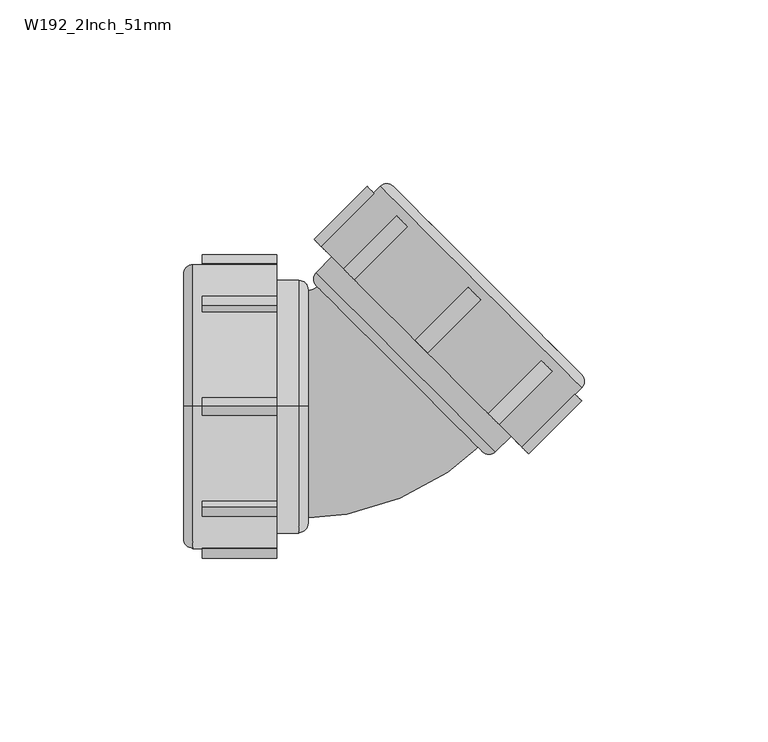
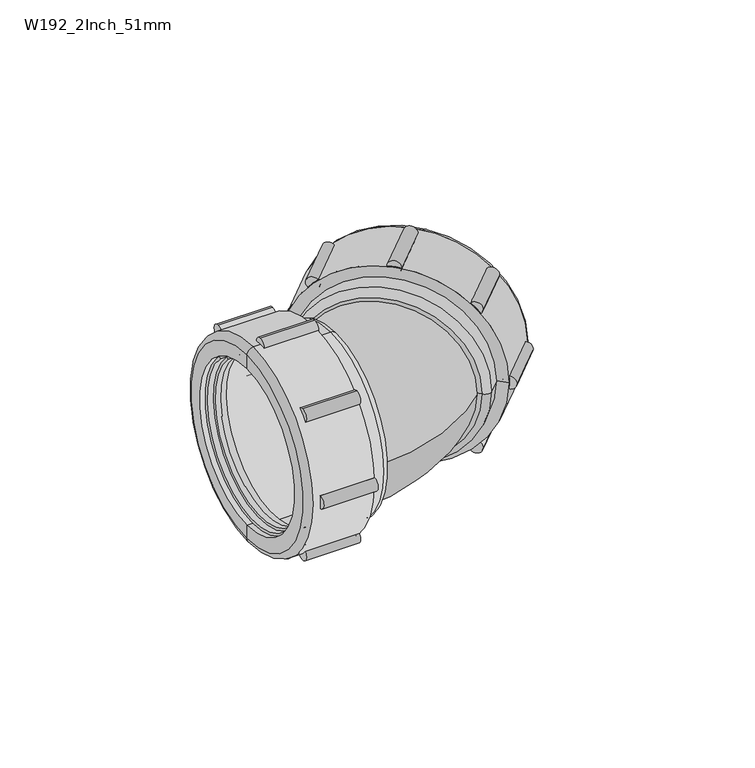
"""IFC4 building model written with IfcOpenShell, lengths in millimetres: pipe fitting geometry, Durapipe_PipeFitting_VulcatheneMechanical_135SlowBend_W19 : W192_2Inch_51mm."""

from ifc_helpers import new_model, si_unit, point, frame, frame_2d, origin, place, context, project, spatial, polyline, circle_curve, ellipse_curve, trimmed, segment, composite_curve, outline, extrude, source, transform, mapped, element, save
from ifc_brep_helpers import plane_surface, cylinder_surface, revolved_surface, advanced_brep


def w192_2inch_51mm_91547f29(model_context):
    return source(origin(), model_context, "Body", "SolidModel", [
        advanced_brep(
        [(26.276861, 48.7806566, 22.839549), (58.576861, 16.4806566, -22.839549), (57.476861, 17.5806566, -21.2839141), (27.376861, 47.6806566, 21.2839141), (22.667063, 44.4708586, 22.3445743), (54.267063, 12.8708586, -22.3445743), (21.9771135, 43.1809091, 21.9203102), (52.9771135, 12.1809091, -21.9203102), (53.967063, 13.1708586, -21.9203102), (22.967063, 44.1708586, 21.9203102), (22.6771135, 42.4809091, 20.9303607), (52.2771135, 12.8809091, -20.9303607), (24.3034591, 44.1072547, 20.9303607), (53.9034591, 14.5072547, -20.9303607), (24.5034591, 43.9072547, 20.647518), (53.7034591, 14.7072547, -20.647518), (25.609094, 45.9128896, 21.2839141), (55.709094, 15.8128896, -21.2839141), (55.259094, 16.2628896, -20.647518), (26.059094, 45.4628896, 20.647518)],
        [
            (0, 1, circle_curve(frame((42.426861, 32.6306566, 0.0), z_axis=(0.7071067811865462, 0.7071067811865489, 0.0), x_axis=(0.5000000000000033, -0.4999999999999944, -0.7071067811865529)), 32.3)),
            (1, 2),
            (2, 3, circle_curve(frame((42.426861, 32.6306566, 0.0), z_axis=(-0.7071067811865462, -0.7071067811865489, 0.0), x_axis=(0.5000000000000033, -0.4999999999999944, -0.7071067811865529)), 30.1)),
            (3, 0),
            (1, 0, circle_curve(frame((42.426861, 32.6306566, 0.0), z_axis=(0.7071067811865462, 0.7071067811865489, 0.0), x_axis=(0.5000000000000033, -0.4999999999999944, -0.7071067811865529)), 32.3)),
            (3, 2, circle_curve(frame((42.426861, 32.6306566, 0.0), z_axis=(-0.7071067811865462, -0.7071067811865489, 0.0), x_axis=(0.5000000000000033, -0.4999999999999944, -0.7071067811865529)), 30.1)),
            (4, 5, circle_curve(frame((38.467063, 28.6708586, 0.0), z_axis=(0.7071067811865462, 0.7071067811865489, 0.0), x_axis=(0.5000000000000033, -0.4999999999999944, -0.7071067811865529)), 31.6)),
            (5, 1),
            (0, 4),
            (5, 4, circle_curve(frame((38.467063, 28.6708586, 0.0), z_axis=(0.7071067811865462, 0.7071067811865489, 0.0), x_axis=(0.5000000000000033, -0.4999999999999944, -0.7071067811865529)), 31.6)),
            (6, 7, circle_curve(frame((37.4771135, 27.6809091, 0.0), z_axis=(0.7071067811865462, 0.7071067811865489, 0.0), x_axis=(0.5000000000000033, -0.4999999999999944, -0.7071067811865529)), 31.0)),
            (7, 8),
            (8, 9, circle_curve(frame((38.467063, 28.6708586, 0.0), z_axis=(-0.7071067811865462, -0.7071067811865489, 0.0), x_axis=(0.5000000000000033, -0.4999999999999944, -0.7071067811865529)), 31.0)),
            (9, 6),
            (7, 6, circle_curve(frame((37.4771135, 27.6809091, 0.0), z_axis=(0.7071067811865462, 0.7071067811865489, 0.0), x_axis=(0.5000000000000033, -0.4999999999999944, -0.7071067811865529)), 31.0)),
            (9, 8, circle_curve(frame((38.467063, 28.6708586, 0.0), z_axis=(-0.7071067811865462, -0.7071067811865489, 0.0), x_axis=(0.5000000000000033, -0.4999999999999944, -0.7071067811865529)), 31.0)),
            (6, 10),
            (10, 11, circle_curve(frame((37.4771135, 27.6809091, 0.0), z_axis=(0.7071067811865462, 0.7071067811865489, 0.0), x_axis=(0.5000000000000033, -0.4999999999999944, -0.7071067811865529)), 29.6)),
            (11, 7),
            (11, 10, circle_curve(frame((37.4771135, 27.6809091, 0.0), z_axis=(0.7071067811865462, 0.7071067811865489, 0.0), x_axis=(0.5000000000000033, -0.4999999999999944, -0.7071067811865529)), 29.6)),
            (10, 12),
            (12, 13, circle_curve(frame((39.1034591, 29.3072547, 0.0), z_axis=(0.7071067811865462, 0.7071067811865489, 0.0), x_axis=(0.5000000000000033, -0.4999999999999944, -0.7071067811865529)), 29.6)),
            (13, 11),
            (13, 12, circle_curve(frame((39.1034591, 29.3072547, 0.0), z_axis=(0.7071067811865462, 0.7071067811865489, 0.0), x_axis=(0.5000000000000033, -0.4999999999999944, -0.7071067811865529)), 29.6)),
            (12, 14),
            (14, 15, circle_curve(frame((39.1034591, 29.3072547, 0.0), z_axis=(0.7071067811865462, 0.7071067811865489, 0.0), x_axis=(0.5000000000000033, -0.4999999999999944, -0.7071067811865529)), 29.2)),
            (15, 13),
            (15, 14, circle_curve(frame((39.1034591, 29.3072547, 0.0), z_axis=(0.7071067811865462, 0.7071067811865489, 0.0), x_axis=(0.5000000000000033, -0.4999999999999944, -0.7071067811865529)), 29.2)),
            (16, 17, circle_curve(frame((40.659094, 30.8628896, 0.0), z_axis=(0.7071067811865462, 0.7071067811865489, 0.0), x_axis=(0.5000000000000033, -0.4999999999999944, -0.7071067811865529)), 30.1)),
            (17, 18),
            (18, 19, circle_curve(frame((40.659094, 30.8628896, 0.0), z_axis=(-0.7071067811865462, -0.7071067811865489, 0.0), x_axis=(0.5000000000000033, -0.4999999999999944, -0.7071067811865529)), 29.2)),
            (19, 16),
            (17, 16, circle_curve(frame((40.659094, 30.8628896, 0.0), z_axis=(0.7071067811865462, 0.7071067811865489, 0.0), x_axis=(0.5000000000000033, -0.4999999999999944, -0.7071067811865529)), 30.1)),
            (19, 18, circle_curve(frame((40.659094, 30.8628896, 0.0), z_axis=(-0.7071067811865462, -0.7071067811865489, 0.0), x_axis=(0.5000000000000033, -0.4999999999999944, -0.7071067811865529)), 29.2)),
            (2, 17),
            (16, 3),
            (14, 19),
            (18, 15),
            (4, 9),
            (8, 5),
        ],
        [
            plane_surface(frame((42.426861, 32.6306566, 0.0), z_axis=(0.7071067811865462, 0.7071067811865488, 0.0), x_axis=(0.500000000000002, -0.4999999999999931, -0.707106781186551))),
            revolved_surface(polyline([(58.576861, 16.4806566, -22.839549), (54.267063, 12.8708586, -22.3445743)]), (45.9623949, 36.1661905, 0.0), (-0.7071067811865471, -0.7071067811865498, 0.0)),
            cylinder_surface(frame((36.0129388, 26.2167344, 0.0), z_axis=(-0.7071067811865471, -0.7071067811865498, 0.0), x_axis=(0.5000000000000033, -0.4999999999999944, -0.7071067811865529)), 31.0),
            plane_surface(frame((37.4771135, 27.6809091, 0.0), z_axis=(-0.7071067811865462, -0.7071067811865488, 0.0), x_axis=(0.500000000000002, -0.4999999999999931, -0.707106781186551))),
            revolved_surface(polyline([(52.27711350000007, 12.880909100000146, -20.930360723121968), (53.90345910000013, 14.50725470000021, -20.930360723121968)]), (35.0071959, 25.2109915, 0.0), (-0.7071067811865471, -0.7071067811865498, 0.0)),
            plane_surface(frame((39.1034591, 29.3072547, 0.0), z_axis=(-0.7071067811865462, -0.7071067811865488, 0.0), x_axis=(0.500000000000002, -0.4999999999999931, -0.707106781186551))),
            plane_surface(frame((40.659094, 30.8628896, 0.0), z_axis=(0.7071067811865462, 0.7071067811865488, 0.0), x_axis=(0.500000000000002, -0.4999999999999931, -0.707106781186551))),
            revolved_surface(polyline([(55.70909400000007, 15.812889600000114, -21.283914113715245), (57.47686100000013, 17.58065660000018, -21.283914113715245)]), (45.9623949, 36.1661905, 0.0), (-0.7071067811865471, -0.7071067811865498, 0.0)),
            revolved_surface(polyline([(53.70345905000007, 14.707254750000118, -20.647518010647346), (55.25909395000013, 16.262889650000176, -20.647518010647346)]), (43.5343262, 33.7381219, 0.0), (-0.7071067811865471, -0.7071067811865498, 0.0)),
            plane_surface(frame((38.467063, 28.6708586, 0.0), z_axis=(-0.7071067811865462, -0.7071067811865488, 0.0), x_axis=(0.500000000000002, -0.4999999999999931, -0.707106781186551))),
        ],
        [
            (0, [[1, 2, 3, 4]]),
            (0, [[-2, 5, -4, 6]]),
            (1, [[7, 8, -1, 9]]),
            (1, [[10, -9, -5, -8]]),
            (2, [[11, 12, 13, 14]]),
            (2, [[-12, 15, -14, 16]]),
            (3, [[-11, 17, 18, 19]]),
            (3, [[-15, -19, 20, -17]]),
            (4, [[21, 22, 23, -18]]),
            (4, [[-21, -20, -23, 24]]),
            (5, [[-22, 25, 26, 27]]),
            (5, [[-24, -27, 28, -25]]),
            (6, [[29, 30, 31, 32]]),
            (6, [[33, -32, 34, -30]]),
            (7, [[-3, 35, -29, 36]]),
            (7, [[-6, -36, -33, -35]]),
            (8, [[37, -31, 38, -26]]),
            (8, [[-37, -28, -38, -34]]),
            (9, [[-7, 39, -13, 40]]),
            (9, [[-10, -40, -16, -39]]),
        ],
    ),
        advanced_brep(
        [(-1.3430488, 43.732233, 0.0), (53.5284374, -11.1392532, 0.0), (69.7211827, 5.0534921, 0.0), (14.8496965, 59.9249783, 0.0), (1.6975104, 40.6916739, 0.0), (50.4878783, -8.098694, 0.0), (18.3852304, 59.9249783, 0.0), (69.7211827, 8.589026, 0.0), (65.9735168, 12.336692, 0.0), (22.1328963, 56.1773124, 0.0), (19.0923372, 55.9651804, 0.0), (65.7613847, 9.2961328, 0.0), (46.4573696, -10.0078823, 0.0), (-0.211678, 36.6611652, 0.0), (20.5065507, 54.5509668, 0.0), (64.3471712, 10.7103464, 0.0), (-2.5451303, 36.4490332, 0.0), (46.2452376, -12.3413347, 0.0), (-2.5451303, 32.9134993, 0.0), (42.7097037, -12.3413347, 0.0), (20.0822867, 10.2860823, 0.0), (23.1228458, 13.3266415, 0.0)],
        [
            (0, 1, circle_curve(frame((26.0926943, 16.2964899, 0.0), z_axis=(0.7071067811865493, 0.7071067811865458, 0.0), x_axis=(0.7071067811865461, -0.7071067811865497, 0.0)), 38.8)),
            (1, 2),
            (2, 3, circle_curve(frame((42.2854396, 32.4892352, 0.0), z_axis=(-0.7071067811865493, -0.7071067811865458, 0.0), x_axis=(0.7071067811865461, -0.7071067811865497, 0.0)), 38.8)),
            (3, 0),
            (1, 0, circle_curve(frame((26.0926943, 16.2964899, 0.0), z_axis=(0.7071067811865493, 0.7071067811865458, 0.0), x_axis=(0.7071067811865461, -0.7071067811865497, 0.0)), 38.8)),
            (3, 2, circle_curve(frame((42.2854396, 32.4892352, 0.0), z_axis=(-0.7071067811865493, -0.7071067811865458, 0.0), x_axis=(0.7071067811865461, -0.7071067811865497, 0.0)), 38.8)),
            (4, 5, circle_curve(frame((26.0926943, 16.2964899, 0.0), z_axis=(0.7071067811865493, 0.7071067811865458, 0.0), x_axis=(0.7071067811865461, -0.7071067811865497, 0.0)), 34.5)),
            (5, 1),
            (0, 4),
            (5, 4, circle_curve(frame((26.0926943, 16.2964899, 0.0), z_axis=(0.7071067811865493, 0.7071067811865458, 0.0), x_axis=(0.7071067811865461, -0.7071067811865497, 0.0)), 34.5)),
            (6, 7, circle_curve(frame((44.0532066, 34.2570022, 0.0), z_axis=(0.7071067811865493, 0.7071067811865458, 0.0), x_axis=(0.7071067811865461, -0.7071067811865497, 0.0)), 36.3)),
            (7, 8),
            (8, 9, circle_curve(frame((44.0532066, 34.2570022, 0.0), z_axis=(-0.7071067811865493, -0.7071067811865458, 0.0), x_axis=(0.7071067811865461, -0.7071067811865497, 0.0)), 31.0)),
            (9, 6),
            (7, 6, circle_curve(frame((44.0532066, 34.2570022, 0.0), z_axis=(0.7071067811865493, 0.7071067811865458, 0.0), x_axis=(0.7071067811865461, -0.7071067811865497, 0.0)), 36.3)),
            (9, 8, circle_curve(frame((44.0532066, 34.2570022, 0.0), z_axis=(-0.7071067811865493, -0.7071067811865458, 0.0), x_axis=(0.7071067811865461, -0.7071067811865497, 0.0)), 31.0)),
            (2, 7, circle_curve(frame((67.9534158, 6.8212591, 0.0), z_axis=(0.0, 0.0, 1.0000000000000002), x_axis=(0.7071067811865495, 0.7071067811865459, 0.0)), 2.5)),
            (6, 3, circle_curve(frame((16.6174634, 58.1572114, 0.0), z_axis=(0.0, 0.0, 1.0000000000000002), x_axis=(0.7071067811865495, 0.7071067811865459, 0.0)), 2.5)),
            (10, 11, circle_curve(frame((42.426861, 32.6306566, 0.0), z_axis=(0.7071067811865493, 0.7071067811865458, 0.0), x_axis=(0.7071067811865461, -0.7071067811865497, 0.0)), 33.0)),
            (11, 12),
            (12, 13, circle_curve(frame((23.1228458, 13.3266415, 0.0), z_axis=(-0.7071067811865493, -0.7071067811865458, 0.0), x_axis=(0.7071067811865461, -0.7071067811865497, 0.0)), 33.0)),
            (13, 10),
            (11, 10, circle_curve(frame((42.426861, 32.6306566, 0.0), z_axis=(0.7071067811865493, 0.7071067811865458, 0.0), x_axis=(0.7071067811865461, -0.7071067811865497, 0.0)), 33.0)),
            (13, 12, circle_curve(frame((23.1228458, 13.3266415, 0.0), z_axis=(-0.7071067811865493, -0.7071067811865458, 0.0), x_axis=(0.7071067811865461, -0.7071067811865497, 0.0)), 33.0)),
            (14, 15, circle_curve(frame((42.426861, 32.6306566, 0.0), z_axis=(0.7071067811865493, 0.7071067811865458, 0.0), x_axis=(0.7071067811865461, -0.7071067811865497, 0.0)), 31.0)),
            (15, 11),
            (10, 14),
            (15, 14, circle_curve(frame((42.426861, 32.6306566, 0.0), z_axis=(0.7071067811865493, 0.7071067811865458, 0.0), x_axis=(0.7071067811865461, -0.7071067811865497, 0.0)), 31.0)),
            (8, 15),
            (14, 9),
            (16, 17, circle_curve(frame((21.8500536, 12.0538492, 0.0), z_axis=(0.7071067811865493, 0.7071067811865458, 0.0), x_axis=(0.7071067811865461, -0.7071067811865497, 0.0)), 34.5)),
            (17, 5),
            (4, 16),
            (17, 16, circle_curve(frame((21.8500536, 12.0538492, 0.0), z_axis=(0.7071067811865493, 0.7071067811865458, 0.0), x_axis=(0.7071067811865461, -0.7071067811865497, 0.0)), 34.5)),
            (18, 19, circle_curve(frame((20.0822867, 10.2860823, 0.0), z_axis=(0.7071067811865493, 0.7071067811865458, 0.0), x_axis=(0.7071067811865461, -0.7071067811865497, 0.0)), 32.0)),
            (19, 17, circle_curve(frame((44.4774706, -10.5735677, 0.0), z_axis=(0.0, 0.0, 1.0000000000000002), x_axis=(0.7071067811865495, 0.7071067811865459, 0.0)), 2.5)),
            (16, 18, circle_curve(frame((-0.7773634, 34.6812662, 0.0), z_axis=(0.0, 0.0, 1.0000000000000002), x_axis=(0.7071067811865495, 0.7071067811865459, 0.0)), 2.5)),
            (19, 18, circle_curve(frame((20.0822867, 10.2860823, 0.0), z_axis=(0.7071067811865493, 0.7071067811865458, 0.0), x_axis=(0.7071067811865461, -0.7071067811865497, 0.0)), 32.0)),
            (20, 19),
            (18, 20),
            (12, 21),
            (21, 13),
        ],
        [
            cylinder_surface(frame((1147.7067564, 1137.910552, 0.0), z_axis=(-0.7071067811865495, -0.7071067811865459, 0.0), x_axis=(0.7071067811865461, -0.7071067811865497, 0.0)), 38.8),
            plane_surface(frame((26.0926943, 16.2964899, 0.0), z_axis=(-0.7071067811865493, -0.7071067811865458, 0.0), x_axis=(0.7071067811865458, -0.7071067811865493, 0.0))),
            plane_surface(frame((44.0532066, 34.2570022, 0.0), z_axis=(0.7071067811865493, 0.7071067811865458, 0.0), x_axis=(0.7071067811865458, -0.7071067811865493, 0.0))),
            revolved_surface(trimmed(ellipse_curve(frame((67.9534158, 6.8212591, 0.0), z_axis=(0.0, 0.0, -1.0000000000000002), x_axis=(0.7071067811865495, 0.7071067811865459, 0.0)), 2.5, 2.5), [point((69.7211827, 8.589026, 0.0))], [point((69.7211827, 5.0534921, 0.0))], True, "CARTESIAN"), (1147.7067564, 1137.910552, 0.0), (-0.7071067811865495, -0.7071067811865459, 0.0)),
            revolved_surface(polyline([(46.45736957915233, -10.007882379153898, 0.0), (65.76138477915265, 9.296132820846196, 0.0)]), (1147.7067564, 1137.910552, 0.0), (-0.7071067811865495, -0.7071067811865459, 0.0)),
            plane_surface(frame((42.426861, 32.6306566, 0.0), z_axis=(-0.7071067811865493, -0.7071067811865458, 0.0), x_axis=(0.7071067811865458, -0.7071067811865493, 0.0))),
            revolved_surface(polyline([(64.34717116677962, 10.71034633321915, 0.0), (65.97351681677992, 12.336691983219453, 0.0)]), (1147.7067564, 1137.910552, 0.0), (-0.7071067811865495, -0.7071067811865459, 0.0)),
            cylinder_surface(frame((1147.7067564, 1137.910552, 0.0), z_axis=(-0.7071067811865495, -0.7071067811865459, 0.0), x_axis=(0.7071067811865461, -0.7071067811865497, 0.0)), 34.5),
            revolved_surface(trimmed(ellipse_curve(frame((44.4774706, -10.5735677, 0.0), z_axis=(0.0, 0.0, -1.0000000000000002), x_axis=(0.7071067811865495, 0.7071067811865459, 0.0)), 2.5, 2.5), [point((46.2452376, -12.3413347, 0.0))], [point((42.7097037, -12.3413347, 0.0))], True, "CARTESIAN"), (1147.7067564, 1137.910552, 0.0), (-0.7071067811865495, -0.7071067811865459, 0.0)),
            plane_surface(frame((20.0822867, 10.2860823, 0.0), z_axis=(-0.7071067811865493, -0.7071067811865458, 0.0), x_axis=(0.7071067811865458, -0.7071067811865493, 0.0))),
            plane_surface(frame((23.1228458, 13.3266415, 0.0), z_axis=(0.7071067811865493, 0.7071067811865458, 0.0), x_axis=(0.7071067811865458, -0.7071067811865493, 0.0))),
        ],
        [
            (0, [[1, 2, 3, 4]]),
            (0, [[5, -4, 6, -2]]),
            (1, [[7, 8, -1, 9]]),
            (1, [[10, -9, -5, -8]]),
            (2, [[11, 12, 13, 14]]),
            (2, [[15, -14, 16, -12]]),
            (3, [[-3, 17, -11, 18]]),
            (3, [[-6, -18, -15, -17]]),
            (4, [[19, 20, 21, 22]]),
            (4, [[23, -22, 24, -20]]),
            (5, [[25, 26, -19, 27]]),
            (5, [[28, -27, -23, -26]]),
            (6, [[-13, 29, -25, 30]]),
            (6, [[-16, -30, -28, -29]]),
            (7, [[31, 32, -7, 33]]),
            (7, [[34, -33, -10, -32]]),
            (8, [[35, 36, -31, 37]]),
            (8, [[38, -37, -34, -36]]),
            (9, [[39, -35, 40]]),
            (9, [[-40, -38, -39]]),
            (10, [[-21, 41, 42]]),
            (10, [[-24, -42, -41]]),
        ],
    ),
        extrude(outline(composite_curve([segment(trimmed(circle_curve(frame_2d((0.0, -2.5)), 2.5), [point((0.0, -5.0))], [point((0.0, 0.0))], False, "CARTESIAN"), True, "CONTINUOUS"), segment(trimmed(circle_curve(frame_2d((0.0, -2.5)), 2.5), [point((0.0, 0.0))], [point((0.0, -5.0))], False, "CARTESIAN"), True, "CONTINUOUS")], self_intersect=False)), frame((27.8604613, 14.528723, -38.8), z_axis=(0.7071067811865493, 0.7071067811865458, 0.0), x_axis=(0.0, 0.0, 1.0)), (0.0, 0.0, 1.0), 20.4),
        extrude(outline(composite_curve([segment(trimmed(circle_curve(frame_2d((11.3642569, 24.9357431)), 2.5), [point((11.3642569, 22.4357431))], [point((11.3642569, 27.4357431))], False, "CARTESIAN"), True, "CONTINUOUS"), segment(trimmed(circle_curve(frame_2d((11.3642569, 24.9357431)), 2.5), [point((11.3642569, 27.4357431))], [point((11.3642569, 22.4357431))], False, "CARTESIAN"), True, "CONTINUOUS")], self_intersect=False)), frame((27.8604613, 14.528723, -38.8), z_axis=(0.7071067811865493, 0.7071067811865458, 0.0), x_axis=(0.0, 0.0, 1.0)), (0.0, 0.0, 1.0), 20.4),
        extrude(outline(composite_curve([segment(trimmed(circle_curve(frame_2d((38.8, 36.3)), 2.5), [point((38.8, 33.8))], [point((38.8, 38.8))], False, "CARTESIAN"), True, "CONTINUOUS"), segment(trimmed(circle_curve(frame_2d((38.8, 36.3)), 2.5), [point((38.8, 38.8))], [point((38.8, 33.8))], False, "CARTESIAN"), True, "CONTINUOUS")], self_intersect=False)), frame((27.8604613, 14.528723, -38.8), z_axis=(0.7071067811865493, 0.7071067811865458, 0.0), x_axis=(0.0, 0.0, 1.0)), (0.0, 0.0, 1.0), 20.4),
        extrude(outline(composite_curve([segment(trimmed(circle_curve(frame_2d((66.2357431, 24.9357431)), 2.5), [point((66.2357431, 22.4357431))], [point((66.2357431, 27.4357431))], False, "CARTESIAN"), True, "CONTINUOUS"), segment(trimmed(circle_curve(frame_2d((66.2357431, 24.9357431)), 2.5), [point((66.2357431, 27.4357431))], [point((66.2357431, 22.4357431))], False, "CARTESIAN"), True, "CONTINUOUS")], self_intersect=False)), frame((27.8604613, 14.528723, -38.8), z_axis=(0.7071067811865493, 0.7071067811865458, 0.0), x_axis=(0.0, 0.0, 1.0)), (0.0, 0.0, 1.0), 20.4),
        extrude(outline(composite_curve([segment(trimmed(circle_curve(frame_2d((77.6, -2.5)), 2.5), [point((77.6, -5.0))], [point((77.6, 0.0))], False, "CARTESIAN"), True, "CONTINUOUS"), segment(trimmed(circle_curve(frame_2d((77.6, -2.5)), 2.5), [point((77.6, 0.0))], [point((77.6, -5.0))], False, "CARTESIAN"), True, "CONTINUOUS")], self_intersect=False)), frame((27.8604613, 14.528723, -38.8), z_axis=(0.7071067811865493, 0.7071067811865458, 0.0), x_axis=(0.0, 0.0, 1.0)), (0.0, 0.0, 1.0), 20.4),
        extrude(outline(composite_curve([segment(trimmed(circle_curve(frame_2d((66.2357431, -29.9357431)), 2.5), [point((66.2357431, -32.4357431))], [point((66.2357431, -27.4357431))], False, "CARTESIAN"), True, "CONTINUOUS"), segment(trimmed(circle_curve(frame_2d((66.2357431, -29.9357431)), 2.5), [point((66.2357431, -27.4357431))], [point((66.2357431, -32.4357431))], False, "CARTESIAN"), True, "CONTINUOUS")], self_intersect=False)), frame((27.8604613, 14.528723, -38.8), z_axis=(0.7071067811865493, 0.7071067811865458, 0.0), x_axis=(0.0, 0.0, 1.0)), (0.0, 0.0, 1.0), 20.4),
        extrude(outline(composite_curve([segment(trimmed(circle_curve(frame_2d((38.8, -41.3)), 2.5), [point((38.8, -43.8))], [point((38.8, -38.8))], False, "CARTESIAN"), True, "CONTINUOUS"), segment(trimmed(circle_curve(frame_2d((38.8, -41.3)), 2.5), [point((38.8, -38.8))], [point((38.8, -43.8))], False, "CARTESIAN"), True, "CONTINUOUS")], self_intersect=False)), frame((27.8604613, 14.528723, -38.8), z_axis=(0.7071067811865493, 0.7071067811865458, 0.0), x_axis=(0.0, 0.0, 1.0)), (0.0, 0.0, 1.0), 20.4),
        extrude(outline(composite_curve([segment(trimmed(circle_curve(frame_2d((11.3642569, -29.9357431)), 2.5), [point((11.3642569, -32.4357431))], [point((11.3642569, -27.4357431))], False, "CARTESIAN"), True, "CONTINUOUS"), segment(trimmed(circle_curve(frame_2d((11.3642569, -29.9357431)), 2.5), [point((11.3642569, -27.4357431))], [point((11.3642569, -32.4357431))], False, "CARTESIAN"), True, "CONTINUOUS")], self_intersect=False)), frame((27.8604613, 14.528723, -38.8), z_axis=(0.7071067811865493, 0.7071067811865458, 0.0), x_axis=(0.0, 0.0, 1.0)), (0.0, 0.0, 1.0), 20.4),
        advanced_brep(
        [(-36.3505127, -22.839549, -22.839549), (-36.3505127, 22.839549, 22.839549), (-36.3505127, 21.2839141, 21.2839141), (-36.3505127, -21.2839141, -21.2839141), (-30.7505127, -22.3445743, -22.3445743), (-30.7505127, 22.3445743, 22.3445743), (-29.3505127, -21.9203102, -21.9203102), (-29.3505127, 21.9203102, 21.9203102), (-30.7505127, 21.9203102, 21.9203102), (-30.7505127, -21.9203102, -21.9203102), (-29.3505127, -20.9303607, -20.9303607), (-29.3505127, 20.9303607, 20.9303607), (-31.6505127, -20.9303607, -20.9303607), (-31.6505127, 20.9303607, 20.9303607), (-31.6505127, -20.647518, -20.647518), (-31.6505127, 20.647518, 20.647518), (-33.8505127, -21.2839141, -21.2839141), (-33.8505127, 21.2839141, 21.2839141), (-33.8505127, 20.647518, 20.647518), (-33.8505127, -20.647518, -20.647518)],
        [
            (0, 1, circle_curve(frame((-36.3505127, 0.0, 0.0), z_axis=(-1.0, 0.0, 0.0), x_axis=(0.0, 0.7071067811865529, 0.7071067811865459)), 32.3)),
            (1, 2),
            (2, 3, circle_curve(frame((-36.3505127, 0.0, 0.0), z_axis=(1.0, 0.0, 0.0), x_axis=(0.0, 0.7071067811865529, 0.7071067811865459)), 30.1)),
            (3, 0),
            (1, 0, circle_curve(frame((-36.3505127, 0.0, 0.0), z_axis=(-1.0, 0.0, 0.0), x_axis=(0.0, 0.7071067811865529, 0.7071067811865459)), 32.3)),
            (3, 2, circle_curve(frame((-36.3505127, 0.0, 0.0), z_axis=(1.0, 0.0, 0.0), x_axis=(0.0, 0.7071067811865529, 0.7071067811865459)), 30.1)),
            (4, 5, circle_curve(frame((-30.7505127, 0.0, 0.0), z_axis=(-1.0, 0.0, 0.0), x_axis=(0.0, 0.7071067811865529, 0.7071067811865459)), 31.6)),
            (5, 1),
            (0, 4),
            (5, 4, circle_curve(frame((-30.7505127, 0.0, 0.0), z_axis=(-1.0, 0.0, 0.0), x_axis=(0.0, 0.7071067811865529, 0.7071067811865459)), 31.6)),
            (6, 7, circle_curve(frame((-29.3505127, 0.0, 0.0), z_axis=(-1.0, 0.0, 0.0), x_axis=(0.0, 0.7071067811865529, 0.7071067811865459)), 31.0)),
            (7, 8),
            (8, 9, circle_curve(frame((-30.7505127, 0.0, 0.0), z_axis=(1.0, 0.0, 0.0), x_axis=(0.0, 0.7071067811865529, 0.7071067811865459)), 31.0)),
            (9, 6),
            (7, 6, circle_curve(frame((-29.3505127, 0.0, 0.0), z_axis=(-1.0, 0.0, 0.0), x_axis=(0.0, 0.7071067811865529, 0.7071067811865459)), 31.0)),
            (9, 8, circle_curve(frame((-30.7505127, 0.0, 0.0), z_axis=(1.0, 0.0, 0.0), x_axis=(0.0, 0.7071067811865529, 0.7071067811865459)), 31.0)),
            (6, 10),
            (10, 11, circle_curve(frame((-29.3505127, 0.0, 0.0), z_axis=(-1.0, 0.0, 0.0), x_axis=(0.0, 0.7071067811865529, 0.7071067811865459)), 29.6)),
            (11, 7),
            (11, 10, circle_curve(frame((-29.3505127, 0.0, 0.0), z_axis=(-1.0, 0.0, 0.0), x_axis=(0.0, 0.7071067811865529, 0.7071067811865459)), 29.6)),
            (10, 12),
            (12, 13, circle_curve(frame((-31.6505127, 0.0, 0.0), z_axis=(-1.0, 0.0, 0.0), x_axis=(0.0, 0.7071067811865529, 0.7071067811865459)), 29.6)),
            (13, 11),
            (13, 12, circle_curve(frame((-31.6505127, 0.0, 0.0), z_axis=(-1.0, 0.0, 0.0), x_axis=(0.0, 0.7071067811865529, 0.7071067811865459)), 29.6)),
            (12, 14),
            (14, 15, circle_curve(frame((-31.6505127, 0.0, 0.0), z_axis=(-1.0, 0.0, 0.0), x_axis=(0.0, 0.7071067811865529, 0.7071067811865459)), 29.2)),
            (15, 13),
            (15, 14, circle_curve(frame((-31.6505127, 0.0, 0.0), z_axis=(-1.0, 0.0, 0.0), x_axis=(0.0, 0.7071067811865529, 0.7071067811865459)), 29.2)),
            (16, 17, circle_curve(frame((-33.8505127, 0.0, 0.0), z_axis=(-1.0, 0.0, 0.0), x_axis=(0.0, 0.7071067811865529, 0.7071067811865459)), 30.1)),
            (17, 18),
            (18, 19, circle_curve(frame((-33.8505127, 0.0, 0.0), z_axis=(1.0, 0.0, 0.0), x_axis=(0.0, 0.7071067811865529, 0.7071067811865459)), 29.2)),
            (19, 16),
            (17, 16, circle_curve(frame((-33.8505127, 0.0, 0.0), z_axis=(-1.0, 0.0, 0.0), x_axis=(0.0, 0.7071067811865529, 0.7071067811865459)), 30.1)),
            (19, 18, circle_curve(frame((-33.8505127, 0.0, 0.0), z_axis=(1.0, 0.0, 0.0), x_axis=(0.0, 0.7071067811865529, 0.7071067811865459)), 29.2)),
            (2, 17),
            (16, 3),
            (14, 19),
            (18, 15),
            (4, 9),
            (8, 5),
        ],
        [
            plane_surface(frame((-36.3505127, 0.0, 0.0), z_axis=(-1.0, 0.0, 0.0), x_axis=(0.0, 0.707106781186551, 0.707106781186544))),
            revolved_surface(polyline([(-36.3505127, 22.839549, 22.839549), (-30.7505127, 22.3445743, 22.3445743)]), (-41.3505127, 0.0, 0.0), (1.0000000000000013, 0.0, 0.0)),
            cylinder_surface(frame((-27.279857, 0.0, 0.0), z_axis=(1.0000000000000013, 0.0, 0.0), x_axis=(0.0, 0.7071067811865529, 0.7071067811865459)), 31.0),
            plane_surface(frame((-29.3505127, 0.0, 0.0), z_axis=(1.0, 0.0, 0.0), x_axis=(0.0, 0.707106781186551, 0.707106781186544))),
            revolved_surface(polyline([(-29.35051270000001, 20.930360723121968, 20.93036072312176), (-31.650512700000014, 20.930360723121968, 20.93036072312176)]), (-25.8575218, 0.0, 0.0), (1.0000000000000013, 0.0, 0.0)),
            plane_surface(frame((-31.6505127, 0.0, 0.0), z_axis=(1.0, 0.0, 0.0), x_axis=(0.0, 0.707106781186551, 0.707106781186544))),
            plane_surface(frame((-33.8505127, 0.0, 0.0), z_axis=(-1.0, 0.0, 0.0), x_axis=(0.0, 0.707106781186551, 0.707106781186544))),
            revolved_surface(polyline([(-33.85051269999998, 21.283914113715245, 21.28391411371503), (-36.35051269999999, 21.283914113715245, 21.28391411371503)]), (-41.3505127, 0.0, 0.0), (1.0000000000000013, 0.0, 0.0)),
            revolved_surface(polyline([(-31.650512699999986, 20.647518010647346, 20.64751801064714), (-33.850512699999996, 20.647518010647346, 20.64751801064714)]), (-37.9167052, 0.0, 0.0), (1.0000000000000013, 0.0, 0.0)),
            plane_surface(frame((-30.7505127, 0.0, 0.0), z_axis=(1.0, 0.0, 0.0), x_axis=(0.0, 0.707106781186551, 0.707106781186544))),
        ],
        [
            (0, [[1, 2, 3, 4]]),
            (0, [[-2, 5, -4, 6]]),
            (1, [[7, 8, -1, 9]]),
            (1, [[10, -9, -5, -8]]),
            (2, [[11, 12, 13, 14]]),
            (2, [[-12, 15, -14, 16]]),
            (3, [[-11, 17, 18, 19]]),
            (3, [[-15, -19, 20, -17]]),
            (4, [[21, 22, 23, -18]]),
            (4, [[-21, -20, -23, 24]]),
            (5, [[-22, 25, 26, 27]]),
            (5, [[-24, -27, 28, -25]]),
            (6, [[29, 30, 31, 32]]),
            (6, [[33, -32, 34, -30]]),
            (7, [[-3, 35, -29, 36]]),
            (7, [[-6, -36, -33, -35]]),
            (8, [[37, -31, 38, -26]]),
            (8, [[-37, -28, -38, -34]]),
            (9, [[-7, 39, -13, 40]]),
            (9, [[-10, -40, -16, -39]]),
        ],
    ),
        advanced_brep(
        [(-13.2505127, 0.0, -38.8), (-13.2505127, 0.0, 38.8), (-36.1505127, 0.0, 38.8), (-36.1505127, 0.0, -38.8), (-13.2505127, 0.0, -34.5), (-13.2505127, 0.0, 34.5), (-38.6505127, 0.0, -36.3), (-38.6505127, 0.0, 36.3), (-38.6505127, 0.0, 31.0), (-38.6505127, 0.0, -31.0), (-36.3505127, 0.0, -33.0), (-36.3505127, 0.0, 33.0), (-9.0505127, 0.0, 33.0), (-9.0505127, 0.0, -33.0), (-36.3505127, 0.0, -31.0), (-36.3505127, 0.0, 31.0), (-7.2505127, 0.0, -34.5), (-7.2505127, 0.0, 34.5), (-4.7505127, 0.0, -32.0), (-4.7505127, 0.0, 32.0), (-4.7505127, 0.0, 0.0), (-9.0505127, 0.0, 0.0)],
        [
            (0, 1, circle_curve(frame((-13.2505127, 0.0, 0.0), z_axis=(-1.0, 0.0, 0.0), x_axis=(0.0, 0.0, 1.0000000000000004)), 38.8)),
            (1, 2),
            (2, 3, circle_curve(frame((-36.1505127, 0.0, 0.0), z_axis=(1.0, 0.0, 0.0), x_axis=(0.0, 0.0, 1.0000000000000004)), 38.8)),
            (3, 0),
            (1, 0, circle_curve(frame((-13.2505127, 0.0, 0.0), z_axis=(-1.0, 0.0, 0.0), x_axis=(0.0, 0.0, 1.0000000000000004)), 38.8)),
            (3, 2, circle_curve(frame((-36.1505127, 0.0, 0.0), z_axis=(1.0, 0.0, 0.0), x_axis=(0.0, 0.0, 1.0000000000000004)), 38.8)),
            (4, 5, circle_curve(frame((-13.2505127, 0.0, 0.0), z_axis=(-1.0, 0.0, 0.0), x_axis=(0.0, 0.0, 1.0000000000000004)), 34.5)),
            (5, 1),
            (0, 4),
            (5, 4, circle_curve(frame((-13.2505127, 0.0, 0.0), z_axis=(-1.0, 0.0, 0.0), x_axis=(0.0, 0.0, 1.0000000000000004)), 34.5)),
            (6, 7, circle_curve(frame((-38.6505127, 0.0, 0.0), z_axis=(-1.0, 0.0, 0.0), x_axis=(0.0, 0.0, 1.0000000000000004)), 36.3)),
            (7, 8),
            (8, 9, circle_curve(frame((-38.6505127, 0.0, 0.0), z_axis=(1.0, 0.0, 0.0), x_axis=(0.0, 0.0, 1.0000000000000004)), 31.0)),
            (9, 6),
            (7, 6, circle_curve(frame((-38.6505127, 0.0, 0.0), z_axis=(-1.0, 0.0, 0.0), x_axis=(0.0, 0.0, 1.0000000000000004)), 36.3)),
            (9, 8, circle_curve(frame((-38.6505127, 0.0, 0.0), z_axis=(1.0, 0.0, 0.0), x_axis=(0.0, 0.0, 1.0000000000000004)), 31.0)),
            (2, 7, circle_curve(frame((-36.1505127, 0.0, 36.3), z_axis=(0.0, -1.0000000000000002, 0.0), x_axis=(-1.0000000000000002, 0.0, 0.0)), 2.5)),
            (6, 3, circle_curve(frame((-36.1505127, 0.0, -36.3), z_axis=(0.0, -1.0000000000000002, 0.0), x_axis=(-1.0000000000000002, 0.0, 0.0)), 2.5)),
            (10, 11, circle_curve(frame((-36.3505127, 0.0, 0.0), z_axis=(-1.0, 0.0, 0.0), x_axis=(0.0, 0.0, 1.0000000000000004)), 33.0)),
            (11, 12),
            (12, 13, circle_curve(frame((-9.0505127, 0.0, 0.0), z_axis=(1.0, 0.0, 0.0), x_axis=(0.0, 0.0, 1.0000000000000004)), 33.0)),
            (13, 10),
            (11, 10, circle_curve(frame((-36.3505127, 0.0, 0.0), z_axis=(-1.0, 0.0, 0.0), x_axis=(0.0, 0.0, 1.0000000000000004)), 33.0)),
            (13, 12, circle_curve(frame((-9.0505127, 0.0, 0.0), z_axis=(1.0, 0.0, 0.0), x_axis=(0.0, 0.0, 1.0000000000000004)), 33.0)),
            (14, 15, circle_curve(frame((-36.3505127, 0.0, 0.0), z_axis=(-1.0, 0.0, 0.0), x_axis=(0.0, 0.0, 1.0000000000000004)), 31.0)),
            (15, 11),
            (10, 14),
            (15, 14, circle_curve(frame((-36.3505127, 0.0, 0.0), z_axis=(-1.0, 0.0, 0.0), x_axis=(0.0, 0.0, 1.0000000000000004)), 31.0)),
            (8, 15),
            (14, 9),
            (16, 17, circle_curve(frame((-7.2505127, 0.0, 0.0), z_axis=(-1.0, 0.0, 0.0), x_axis=(0.0, 0.0, 1.0000000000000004)), 34.5)),
            (17, 5),
            (4, 16),
            (17, 16, circle_curve(frame((-7.2505127, 0.0, 0.0), z_axis=(-1.0, 0.0, 0.0), x_axis=(0.0, 0.0, 1.0000000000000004)), 34.5)),
            (18, 19, circle_curve(frame((-4.7505127, 0.0, 0.0), z_axis=(-1.0, 0.0, 0.0), x_axis=(0.0, 0.0, 1.0000000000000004)), 32.0)),
            (19, 17, circle_curve(frame((-7.2505127, 0.0, 32.0), z_axis=(0.0, -1.0000000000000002, 0.0), x_axis=(-1.0000000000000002, 0.0, 0.0)), 2.5)),
            (16, 18, circle_curve(frame((-7.2505127, 0.0, -32.0), z_axis=(0.0, -1.0000000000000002, 0.0), x_axis=(-1.0000000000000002, 0.0, 0.0)), 2.5)),
            (19, 18, circle_curve(frame((-4.7505127, 0.0, 0.0), z_axis=(-1.0, 0.0, 0.0), x_axis=(0.0, 0.0, 1.0000000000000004)), 32.0)),
            (20, 19),
            (18, 20),
            (12, 21),
            (21, 13),
        ],
        [
            cylinder_surface(frame((-1599.4523311, 0.0, 0.0), z_axis=(1.0000000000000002, 0.0, 0.0), x_axis=(0.0, 0.0, 1.0000000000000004)), 38.8),
            plane_surface(frame((-13.2505127, 0.0, 0.0), z_axis=(1.0, 0.0, 0.0), x_axis=(0.0, 0.0, 1.0))),
            plane_surface(frame((-38.6505127, 0.0, 0.0), z_axis=(-1.0, 0.0, 0.0), x_axis=(0.0, 0.0, 1.0))),
            revolved_surface(trimmed(ellipse_curve(frame((-36.1505127, 0.0, 36.3), z_axis=(0.0, 1.0000000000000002, 0.0), x_axis=(-1.0000000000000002, 0.0, 0.0)), 2.5, 2.5), [point((-38.6505127, 0.0, 36.3))], [point((-36.1505127, 0.0, 38.8))], True, "CARTESIAN"), (-1599.4523311, 0.0, 0.0), (1.0000000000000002, 0.0, 0.0)),
            revolved_surface(polyline([(-9.05051269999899, 0.0, 33.000000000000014), (-36.35051269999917, 0.0, 33.000000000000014)]), (-1599.4523311, 0.0, 0.0), (1.0000000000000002, 0.0, 0.0)),
            plane_surface(frame((-36.3505127, 0.0, 0.0), z_axis=(1.0, 0.0, 0.0), x_axis=(0.0, 0.0, 1.0))),
            revolved_surface(polyline([(-36.35051269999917, 0.0, 31.000000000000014), (-38.650512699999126, 0.0, 31.000000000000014)]), (-1599.4523311, 0.0, 0.0), (1.0000000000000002, 0.0, 0.0)),
            cylinder_surface(frame((-1599.4523311, 0.0, 0.0), z_axis=(1.0000000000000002, 0.0, 0.0), x_axis=(0.0, 0.0, 1.0000000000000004)), 34.5),
            revolved_surface(trimmed(ellipse_curve(frame((-7.2505127, 0.0, 32.0), z_axis=(0.0, 1.0000000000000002, 0.0), x_axis=(-1.0000000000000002, 0.0, 0.0)), 2.5, 2.5), [point((-7.2505127, 0.0, 34.5))], [point((-4.7505127, 0.0, 32.0))], True, "CARTESIAN"), (-1599.4523311, 0.0, 0.0), (1.0000000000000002, 0.0, 0.0)),
            plane_surface(frame((-4.7505127, 0.0, 0.0), z_axis=(1.0, 0.0, 0.0), x_axis=(0.0, 0.0, 1.0))),
            plane_surface(frame((-9.0505127, 0.0, 0.0), z_axis=(-1.0, 0.0, 0.0), x_axis=(0.0, 0.0, 1.0))),
        ],
        [
            (0, [[1, 2, 3, 4]]),
            (0, [[5, -4, 6, -2]]),
            (1, [[7, 8, -1, 9]]),
            (1, [[10, -9, -5, -8]]),
            (2, [[11, 12, 13, 14]]),
            (2, [[15, -14, 16, -12]]),
            (3, [[-3, 17, -11, 18]]),
            (3, [[-6, -18, -15, -17]]),
            (4, [[19, 20, 21, 22]]),
            (4, [[23, -22, 24, -20]]),
            (5, [[25, 26, -19, 27]]),
            (5, [[28, -27, -23, -26]]),
            (6, [[-13, 29, -25, 30]]),
            (6, [[-16, -30, -28, -29]]),
            (7, [[31, 32, -7, 33]]),
            (7, [[34, -33, -10, -32]]),
            (8, [[35, 36, -31, 37]]),
            (8, [[38, -37, -34, -36]]),
            (9, [[39, -35, 40]]),
            (9, [[-40, -38, -39]]),
            (10, [[-21, 41, 42]]),
            (10, [[-24, -42, -41]]),
        ],
    ),
        extrude(outline(composite_curve([segment(trimmed(circle_curve(frame_2d((38.8, 0.0)), 2.5), [point((38.8, -2.5))], [point((38.8, 2.5))], False, "CARTESIAN"), True, "CONTINUOUS"), segment(trimmed(circle_curve(frame_2d((38.8, 0.0)), 2.5), [point((38.8, 2.5))], [point((38.8, -2.5))], False, "CARTESIAN"), True, "CONTINUOUS")], self_intersect=False)), frame((-33.6505127, 0.0, 0.0), z_axis=(1.0, 0.0, 0.0), x_axis=(0.0, 1.0, 0.0)), (0.0, 0.0, 1.0), 20.4),
        extrude(outline(composite_curve([segment(trimmed(circle_curve(frame_2d((27.4357431, 27.4357431)), 2.5), [point((27.4357431, 24.9357431))], [point((27.4357431, 29.9357431))], False, "CARTESIAN"), True, "CONTINUOUS"), segment(trimmed(circle_curve(frame_2d((27.4357431, 27.4357431)), 2.5), [point((27.4357431, 29.9357431))], [point((27.4357431, 24.9357431))], False, "CARTESIAN"), True, "CONTINUOUS")], self_intersect=False)), frame((-33.6505127, 0.0, 0.0), z_axis=(1.0, 0.0, 0.0), x_axis=(0.0, 1.0, 0.0)), (0.0, 0.0, 1.0), 20.4),
        extrude(outline(composite_curve([segment(trimmed(circle_curve(frame_2d((0.0, 38.8)), 2.5), [point((0.0, 36.3))], [point((0.0, 41.3))], False, "CARTESIAN"), True, "CONTINUOUS"), segment(trimmed(circle_curve(frame_2d((0.0, 38.8)), 2.5), [point((0.0, 41.3))], [point((0.0, 36.3))], False, "CARTESIAN"), True, "CONTINUOUS")], self_intersect=False)), frame((-33.6505127, 0.0, 0.0), z_axis=(1.0, 0.0, 0.0), x_axis=(0.0, 1.0, 0.0)), (0.0, 0.0, 1.0), 20.4),
        extrude(outline(composite_curve([segment(trimmed(circle_curve(frame_2d((-27.4357431, 27.4357431)), 2.5), [point((-27.4357431, 24.9357431))], [point((-27.4357431, 29.9357431))], False, "CARTESIAN"), True, "CONTINUOUS"), segment(trimmed(circle_curve(frame_2d((-27.4357431, 27.4357431)), 2.5), [point((-27.4357431, 29.9357431))], [point((-27.4357431, 24.9357431))], False, "CARTESIAN"), True, "CONTINUOUS")], self_intersect=False)), frame((-33.6505127, 0.0, 0.0), z_axis=(1.0, 0.0, 0.0), x_axis=(0.0, 1.0, 0.0)), (0.0, 0.0, 1.0), 20.4),
        extrude(outline(composite_curve([segment(trimmed(circle_curve(frame_2d((-38.8, 0.0)), 2.5), [point((-38.8, -2.5))], [point((-38.8, 2.5))], False, "CARTESIAN"), True, "CONTINUOUS"), segment(trimmed(circle_curve(frame_2d((-38.8, 0.0)), 2.5), [point((-38.8, 2.5))], [point((-38.8, -2.5))], False, "CARTESIAN"), True, "CONTINUOUS")], self_intersect=False)), frame((-33.6505127, 0.0, 0.0), z_axis=(1.0, 0.0, 0.0), x_axis=(0.0, 1.0, 0.0)), (0.0, 0.0, 1.0), 20.4),
        extrude(outline(composite_curve([segment(trimmed(circle_curve(frame_2d((-27.4357431, -27.4357431)), 2.5), [point((-27.4357431, -29.9357431))], [point((-27.4357431, -24.9357431))], False, "CARTESIAN"), True, "CONTINUOUS"), segment(trimmed(circle_curve(frame_2d((-27.4357431, -27.4357431)), 2.5), [point((-27.4357431, -24.9357431))], [point((-27.4357431, -29.9357431))], False, "CARTESIAN"), True, "CONTINUOUS")], self_intersect=False)), frame((-33.6505127, 0.0, 0.0), z_axis=(1.0, 0.0, 0.0), x_axis=(0.0, 1.0, 0.0)), (0.0, 0.0, 1.0), 20.4),
        extrude(outline(composite_curve([segment(trimmed(circle_curve(frame_2d((0.0, -38.8)), 2.5), [point((0.0, -41.3))], [point((0.0, -36.3))], False, "CARTESIAN"), True, "CONTINUOUS"), segment(trimmed(circle_curve(frame_2d((0.0, -38.8)), 2.5), [point((0.0, -36.3))], [point((0.0, -41.3))], False, "CARTESIAN"), True, "CONTINUOUS")], self_intersect=False)), frame((-33.6505127, 0.0, 0.0), z_axis=(1.0, 0.0, 0.0), x_axis=(0.0, 1.0, 0.0)), (0.0, 0.0, 1.0), 20.4),
        extrude(outline(composite_curve([segment(trimmed(circle_curve(frame_2d((27.4357431, -27.4357431)), 2.5), [point((27.4357431, -29.9357431))], [point((27.4357431, -24.9357431))], False, "CARTESIAN"), True, "CONTINUOUS"), segment(trimmed(circle_curve(frame_2d((27.4357431, -27.4357431)), 2.5), [point((27.4357431, -24.9357431))], [point((27.4357431, -29.9357431))], False, "CARTESIAN"), True, "CONTINUOUS")], self_intersect=False)), frame((-33.6505127, 0.0, 0.0), z_axis=(1.0, 0.0, 0.0), x_axis=(0.0, 1.0, 0.0)), (0.0, 0.0, 1.0), 20.4),
        advanced_brep(
        [(-9.0505127, -30.75, 0.0), (-9.0505127, 30.75, 0.0), (44.8663793, -8.4168921, 0.0), (1.3793123, 35.070175, 0.0)],
        [
            (0, 1, circle_curve(frame((-9.0505127, 0.0, 0.0), z_axis=(-1.0, 0.0, 0.0), x_axis=(0.0, 1.0, 0.0)), 30.75)),
            (1, 0, circle_curve(frame((-9.0505127, 0.0, 0.0), z_axis=(-1.0, 0.0, 0.0), x_axis=(0.0, 1.0, 0.0)), 30.75)),
            (2, 3, circle_curve(frame((23.1228458, 13.3266415, 0.0), z_axis=(0.7071067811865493, 0.7071067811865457, 0.0), x_axis=(-0.7071067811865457, 0.7071067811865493, 0.0)), 30.75)),
            (3, 2, circle_curve(frame((23.1228458, 13.3266415, 0.0), z_axis=(0.7071067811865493, 0.7071067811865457, 0.0), x_axis=(-0.7071067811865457, 0.7071067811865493, 0.0)), 30.75)),
            (3, 1, circle_curve(frame((-9.0505127, 45.5, 0.0), z_axis=(0.0, 0.0, -1.0), x_axis=(0.0, -1.0, 0.0)), 14.75)),
            (0, 2, circle_curve(frame((-9.0505127, 45.5, 0.0), z_axis=(0.0, 0.0, 1.0), x_axis=(0.0, -1.0, 0.0)), 76.25)),
        ],
        [
            plane_surface(frame((-9.0505127, 0.0, 0.0), z_axis=(-1.0, 0.0, 0.0), x_axis=(0.0, 0.0, 1.0))),
            plane_surface(frame((23.1228458, 13.3266415, 0.0), z_axis=(0.7071067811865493, 0.7071067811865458, 0.0), x_axis=(0.0, 0.0, 1.0))),
            revolved_surface(trimmed(ellipse_curve(frame((-9.0505127, 0.0, 0.0), z_axis=(-1.0, 0.0, 0.0), x_axis=(0.0, 1.0, 0.0)), 30.75, 30.75), [point((-9.0505127, -30.75, 0.0))], [point((-9.0505127, 30.75, 0.0))], True, "CARTESIAN"), (-9.0505127, 45.5, 0.0), (0.0, 0.0, 1.0)),
            revolved_surface(trimmed(ellipse_curve(frame((-9.0505127, 0.0, 0.0), z_axis=(-1.0, 0.0, 0.0), x_axis=(0.0, 1.0, 0.0)), 30.75, 30.75), [point((-9.0505127, 30.75, 0.0))], [point((-9.0505127, -30.75, 0.0))], True, "CARTESIAN"), (-9.0505127, 45.5, 0.0), (0.0, 0.0, 1.0)),
        ],
        [
            (0, [[1, 2]]),
            (1, [[3, 4]]),
            (2, [[5, -1, 6, -4]]),
            (3, [[-6, -2, -5, -3]]),
        ],
    ),
    ])


if __name__ == "__main__":
    model = new_model("IFC4")
    model_context = context("Model", 3, world=origin())
    ifc_project = project(units=[si_unit("LENGTHUNIT", "METRE", prefix="MILLI")], contexts=[model_context])
    site = spatial("IfcSite", under=ifc_project)
    building = spatial("IfcBuilding", under=site)
    placement = place(None, origin())
    w192_2inch_51mm_shape = w192_2inch_51mm_91547f29(model_context)
    element("IfcPipeFitting", 1, ObjectType="Durapipe_PipeFitting_VulcatheneMechanical_135SlowBend_W19 : W192_2Inch_51mm", at=placement, inside=building, context=model_context, shape_type="MappedRepresentation", body=[
        mapped(w192_2inch_51mm_shape, transform((0.0, 0.0, 0.0), x_axis=(1.0, 0.0, 0.0), y_axis=(0.0, 1.0, 0.0), z_axis=(0.0, 0.0, 1.0))),
    ])
    save(model, "model.ifc")
